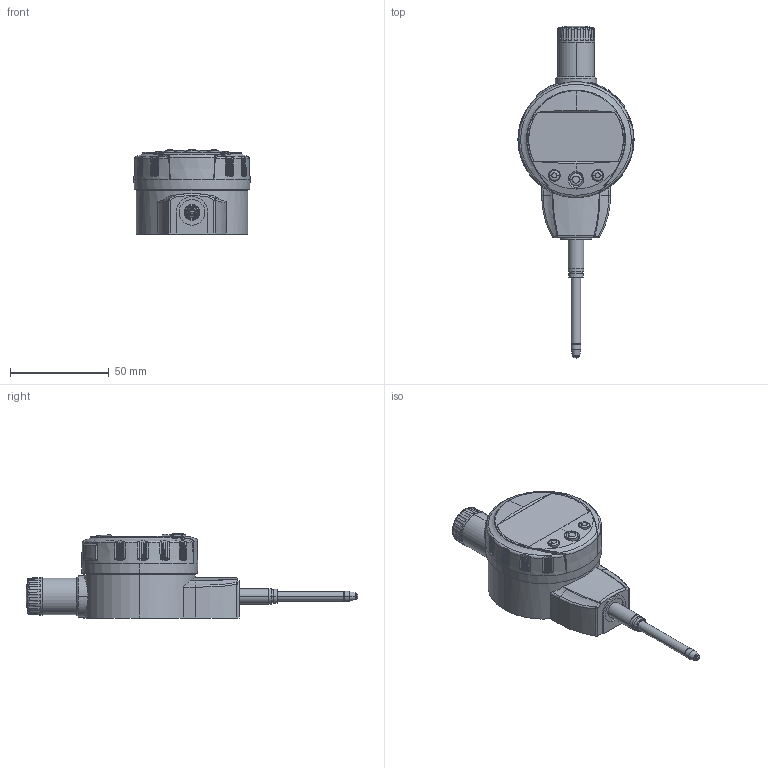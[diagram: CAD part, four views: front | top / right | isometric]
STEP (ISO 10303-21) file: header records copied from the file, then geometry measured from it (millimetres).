
FILE_DESCRIPTION(('Creo Elements/Direct Modeling STEP Export'),'2;1');
FILE_NAME('543-470B_ID-C125XB.stp','2020-04-14T 8:17:01',(''),(''),'Creo Elements/Direct Modeling STEP processor for AP214 (Solid Model)','Creo Elements/Direct Modeling 18.1I 13-Aug-2016 (C) Parametric Technology GmbH','');
FILE_SCHEMA(('AUTOMOTIVE_DESIGN { 1 0 10303 214 1 1 1 1 }'));
Length unit declared in the file: millimetre
Products named in the file (2): Top
Assembly tree (1 placements, depth 2):
  Top
    Top
Bounding box: 59 x 168.48 x 42.65 mm (x, y, z)
Volume: 128141.2 mm3; surface area: 20300.8 mm2
Topology: 1 solids, 1 shells, 469 faces, 1326 edges, 846 vertices
Faces by surface type: cylinder 117, cone 103, plane 100, bspline 81, torus 54, sphere 6, revolution 6, extrusion 2
Entity records: 27463 total; most frequent: CARTESIAN_POINT 16152, ORIENTED_EDGE 2576, DIRECTION 1818, EDGE_CURVE 1288, VERTEX_POINT 846, AXIS2_PLACEMENT_3D 787, B_SPLINE_CURVE_WITH_KNOTS 549, EDGE_LOOP 494
